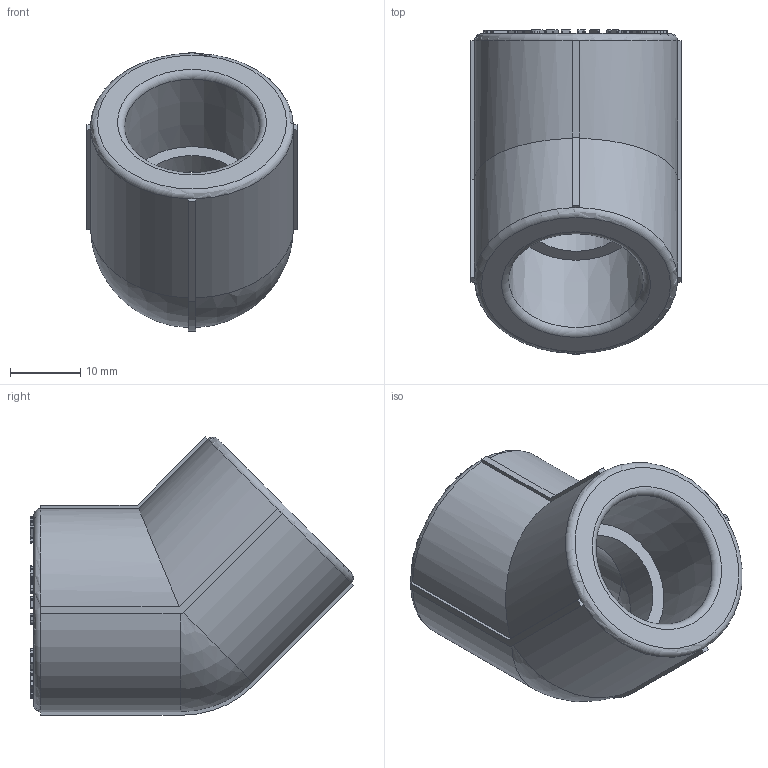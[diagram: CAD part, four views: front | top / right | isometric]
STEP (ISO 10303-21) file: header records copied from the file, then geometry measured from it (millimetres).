
FILE_DESCRIPTION(('STEP AP203'), '1');
FILE_NAME('ÂÐ.752216.009 - VTp.759.0.020', '', ('UNSPECIFIED'), ('UNSPECIFIED'), 'C3D Converter', 'C3D Toolkit', '');
FILE_SCHEMA(('CONFIG_CONTROL_DESIGN'));
Length unit declared in the file: millimetre
Products named in the file (1): ВР.752216.009
Bounding box: 30 x 46.25 x 39.75 mm (x, y, z)
Volume: 16845.6 mm3; surface area: 7252.1 mm2
Topology: 1 solids, 1 shells, 574 faces, 1600 edges, 1058 vertices
Faces by surface type: extrusion 318, plane 236, cylinder 11, torus 4, sphere 3, cone 2
Full cylindrical faces by diameter (mm): 15.5 x2
Entity records: 18648 total; most frequent: CARTESIAN_POINT 5143, ORIENTED_EDGE 3180, DIRECTION 1824, EDGE_CURVE 1590, VECTOR 1226, VERTEX_POINT 1058, B_SPLINE_CURVE_WITH_KNOTS 954, LINE 908
